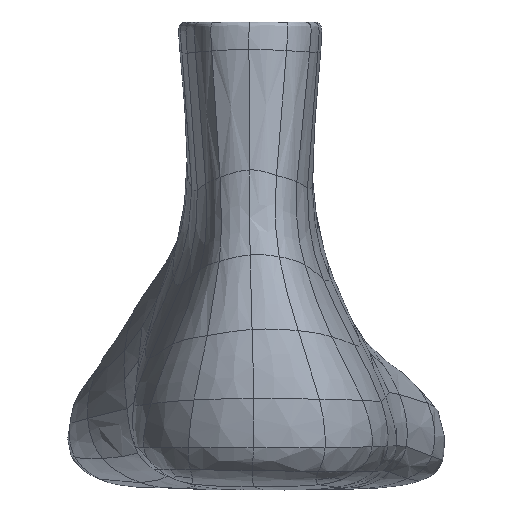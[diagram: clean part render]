
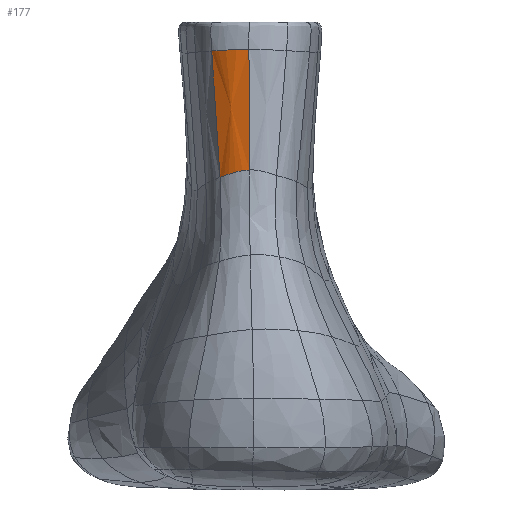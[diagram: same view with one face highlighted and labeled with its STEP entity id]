
A CAD part, left-side view. The second image highlights one B-rep face of the part: STEP entity #177.
In plain terms, the highlighted free-form (B-spline) face has degree [3, 3] with [5, 5] control points.
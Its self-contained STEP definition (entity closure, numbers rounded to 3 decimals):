
#177=ADVANCED_FACE('',(#412),#3153,.T.);
#412=FACE_OUTER_BOUND('',#647,.T.);
#647=EDGE_LOOP('',(#1397,#1398,#1399,#1400));
#1397=ORIENTED_EDGE('',*,*,#2089,.F.);
#1398=ORIENTED_EDGE('',*,*,#2108,.F.);
#1399=ORIENTED_EDGE('',*,*,#2111,.F.);
#1400=ORIENTED_EDGE('',*,*,#2090,.T.);
#2089=EDGE_CURVE('',#2883,#2874,#2585,.T.);
#2090=EDGE_CURVE('',#2885,#2874,#2586,.T.);
#2108=EDGE_CURVE('',#2889,#2883,#2604,.T.);
#2111=EDGE_CURVE('',#2885,#2889,#2607,.T.);
#2585=B_SPLINE_CURVE_WITH_KNOTS('',3,(#13795,#13796,#13797,#13798,#13799),
 .UNSPECIFIED.,.F.,.F.,(4,1,4),(-2.,-1.,0.),.UNSPECIFIED.);
#2586=B_SPLINE_CURVE_WITH_KNOTS('',3,(#13800,#13801,#13802,#13803,#13804),
 .UNSPECIFIED.,.F.,.F.,(4,1,4),(-2.,-1.,0.),.UNSPECIFIED.);
#2604=B_SPLINE_CURVE_WITH_KNOTS('',3,(#13907,#13908,#13909,#13910),
 .UNSPECIFIED.,.F.,.F.,(4,4),(-1.,0.),.UNSPECIFIED.);
#2607=B_SPLINE_CURVE_WITH_KNOTS('',3,(#13924,#13925,#13926,#13927,#13928),
 .UNSPECIFIED.,.F.,.F.,(4,1,4),(0.,1.,2.),.UNSPECIFIED.);
#2874=VERTEX_POINT('',#11519);
#2883=VERTEX_POINT('',#11528);
#2885=VERTEX_POINT('',#11530);
#2889=VERTEX_POINT('',#11534);
#3153=B_SPLINE_SURFACE_WITH_KNOTS('',3,3,((#9190,#9191,#9192,#9193,#9194),
(#9195,#9196,#9197,#9198,#9199),(#9200,#9201,#9202,#9203,#9204),(#9205,
#9206,#9207,#9208,#9209),(#9210,#9211,#9212,#9213,#9214)),.UNSPECIFIED.,
 .F.,.F.,.F.,(4,1,4),(4,1,4),(0.,1.,2.),(0.,1.,2.),.UNSPECIFIED.);
#9190=CARTESIAN_POINT('',(17.127,12.642,142.833));
#9191=CARTESIAN_POINT('',(15.913,11.409,142.916));
#9192=CARTESIAN_POINT('',(13.92,8.234,143.126));
#9193=CARTESIAN_POINT('',(12.892,4.427,143.26));
#9194=CARTESIAN_POINT('',(12.643,2.56,143.267));
#9195=CARTESIAN_POINT('',(16.947,12.397,138.916));
#9196=CARTESIAN_POINT('',(15.758,11.187,139.041));
#9197=CARTESIAN_POINT('',(13.794,8.079,139.356));
#9198=CARTESIAN_POINT('',(12.773,4.369,139.557));
#9199=CARTESIAN_POINT('',(12.527,2.557,139.567));
#9200=CARTESIAN_POINT('',(16.579,11.546,127.167));
#9201=CARTESIAN_POINT('',(15.477,10.421,127.416));
#9202=CARTESIAN_POINT('',(13.621,7.54,128.046));
#9203=CARTESIAN_POINT('',(12.632,4.154,128.448));
#9204=CARTESIAN_POINT('',(12.396,2.525,128.468));
#9205=CARTESIAN_POINT('',(15.809,10.663,113.996));
#9206=CARTESIAN_POINT('',(14.788,9.622,114.351));
#9207=CARTESIAN_POINT('',(13.073,6.97,115.242));
#9208=CARTESIAN_POINT('',(12.157,3.916,115.815));
#9209=CARTESIAN_POINT('',(11.936,2.473,115.853));
#9210=CARTESIAN_POINT('',(15.228,10.386,108.658));
#9211=CARTESIAN_POINT('',(14.226,9.368,109.037));
#9212=CARTESIAN_POINT('',(12.571,6.784,109.978));
#9213=CARTESIAN_POINT('',(11.703,3.833,110.589));
#9214=CARTESIAN_POINT('',(11.489,2.449,110.639));
#11519=CARTESIAN_POINT('',(17.127,12.642,142.833));
#11528=CARTESIAN_POINT('',(15.228,10.386,108.658));
#11530=CARTESIAN_POINT('',(12.643,2.56,143.267));
#11534=CARTESIAN_POINT('',(11.489,2.449,110.639));
#13795=CARTESIAN_POINT('',(15.228,10.386,108.658));
#13796=CARTESIAN_POINT('',(15.809,10.663,113.996));
#13797=CARTESIAN_POINT('',(16.579,11.546,127.167));
#13798=CARTESIAN_POINT('',(16.947,12.397,138.916));
#13799=CARTESIAN_POINT('',(17.127,12.642,142.833));
#13800=CARTESIAN_POINT('',(12.643,2.56,143.267));
#13801=CARTESIAN_POINT('',(12.892,4.427,143.26));
#13802=CARTESIAN_POINT('',(13.92,8.234,143.126));
#13803=CARTESIAN_POINT('',(15.913,11.409,142.916));
#13804=CARTESIAN_POINT('',(17.127,12.642,142.833));
#13907=CARTESIAN_POINT('',(11.489,2.449,110.639));
#13908=CARTESIAN_POINT('',(11.918,5.218,110.539));
#13909=CARTESIAN_POINT('',(13.224,8.351,109.417));
#13910=CARTESIAN_POINT('',(15.228,10.386,108.658));
#13924=CARTESIAN_POINT('',(12.643,2.56,143.267));
#13925=CARTESIAN_POINT('',(12.527,2.557,139.567));
#13926=CARTESIAN_POINT('',(12.396,2.525,128.468));
#13927=CARTESIAN_POINT('',(11.936,2.473,115.853));
#13928=CARTESIAN_POINT('',(11.489,2.449,110.639));
